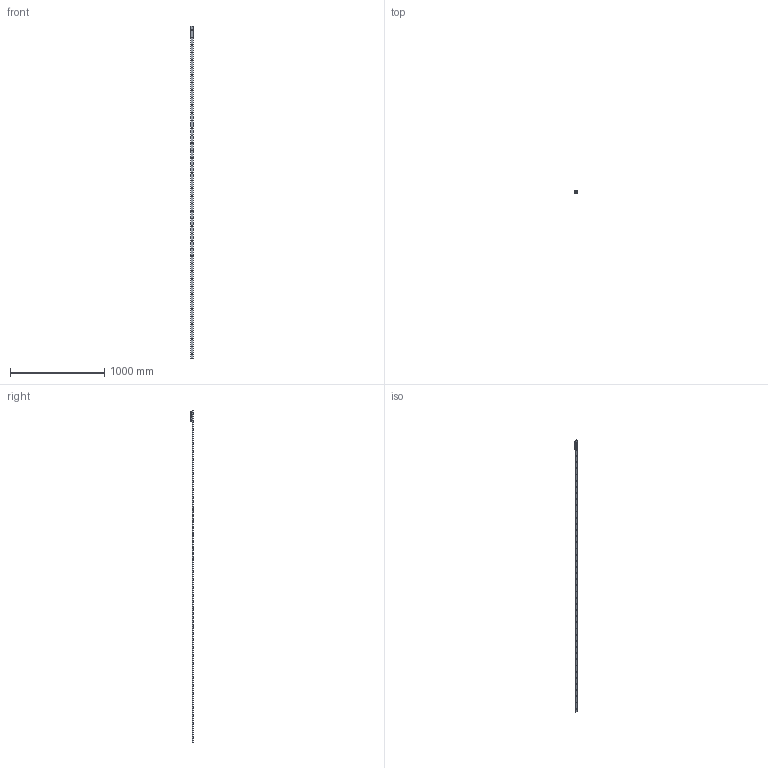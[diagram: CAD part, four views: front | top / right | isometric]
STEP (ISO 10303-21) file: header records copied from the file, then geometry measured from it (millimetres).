
FILE_DESCRIPTION( ( 'STEP AP214' ), '1' );
FILE_NAME( 'p:/temp/worker_23/temp/exporttempdir_3620_373_q4SSn/format_0/TGV-03520_1_RV28G-3.stp', '2020-11-20T16:44:44', ( 'License CC BY-ND 4.0' ), ( 'CADENAS' ), ' ', 'PARTsolutions', ' ' );
FILE_SCHEMA( ( 'AUTOMOTIVE_DESIGN { 1 0 10303 214 1 1 1 1 }' ) );
Length unit declared in the file: millimetre
Products named in the file (6): TGV-03520/1/RV28G-3; _TGV28-3520-(3-1); _RV28G-3-slider; _RGNV28R; _RGAV28R; _WR28G-01
Assembly tree (7 placements, depth 2):
  TGV-03520/1/RV28G-3
    _TGV28-3520-(3-1)
    _RV28G-3-slider
    _RGNV28R  x2
    _RGAV28R
    _WR28G-01  x2
Bounding box: 28 x 24 x 3520 mm (x, y, z)
Volume: 544703.7 mm3; surface area: 350921.5 mm2
Topology: 7 solids, 7 shells, 1100 faces, 2865 edges, 1861 vertices
Faces by surface type: plane 657, cylinder 324, cone 84, bspline 26, torus 9
Full cylindrical faces by diameter (mm): 1.27 x4, 2 x2, 2.5 x6, 4 x4, 4.134 x4, 4.2 x3, 5 x3, 5.5 x3, 5.75 x44, 7 x5, 7.5 x1, 8 x6, 10.8 x3, 17 x3, 20.75 x6
Entity records: 27131 total; most frequent: CARTESIAN_POINT 4227, DIRECTION 3640, ORIENTED_EDGE 3258, EDGE_CURVE 1629, AXIS2_PLACEMENT_3D 1425, VERTEX_POINT 1161, EDGE_LOOP 1055, FACE_OUTER_BOUND 813
